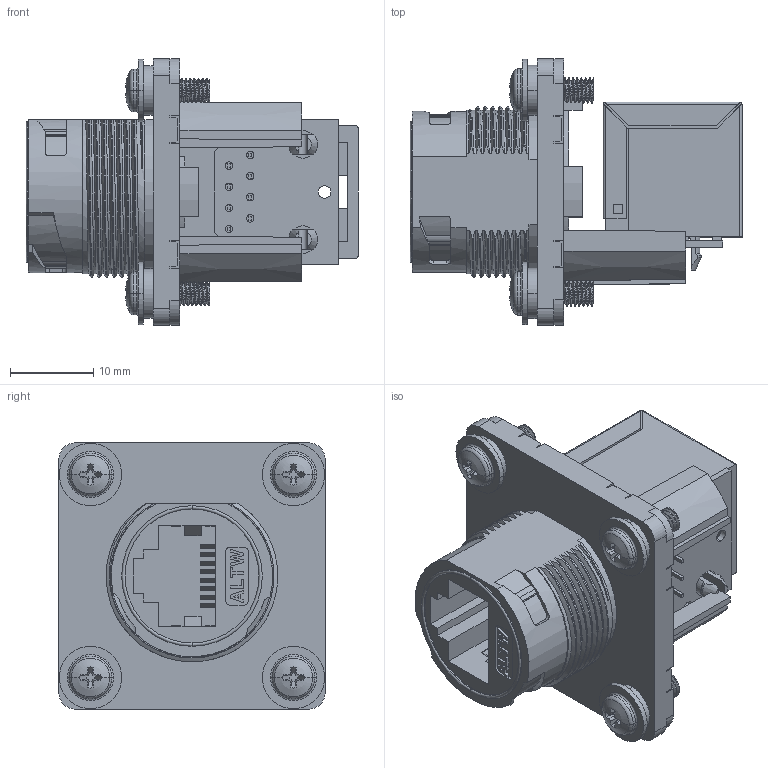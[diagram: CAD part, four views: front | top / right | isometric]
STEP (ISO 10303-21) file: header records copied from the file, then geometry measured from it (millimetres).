
FILE_DESCRIPTION((''),'2;1');
FILE_NAME('RCP-5SPFFV-TSU7001_EQ_SW0001','2014-08-11T',('LT0842'),(''),'PRO/ENGINEER BY PARAMETRIC TECHNOLOGY CORPORATION, 2013050','PRO/ENGINEER BY PARAMETRIC TECHNOLOGY CORPORATION, 2013050','');
FILE_SCHEMA(('CONFIG_CONTROL_DESIGN'));
Products named in the file (1): RCP-5SPFFV-TSU7001_EQ_SW0001
Bounding box: 39.9 x 32 x 32 mm (x, y, z)
Volume: 10668.4 mm3; surface area: 9250.1 mm2
Topology: 5 solids, 5 shells, 1075 faces, 2989 edges, 1950 vertices
Faces by surface type: plane 589, cylinder 323, bspline 116, torus 18, sphere 16, cone 13
Entity records: 69597 total; most frequent: CARTESIAN_POINT 39397, ORIENTED_EDGE 5974, DIRECTION 4768, EDGE_CURVE 2987, VERTEX_POINT 1950, VECTOR 1944, LINE 1944, AXIS2_PLACEMENT_3D 1412
